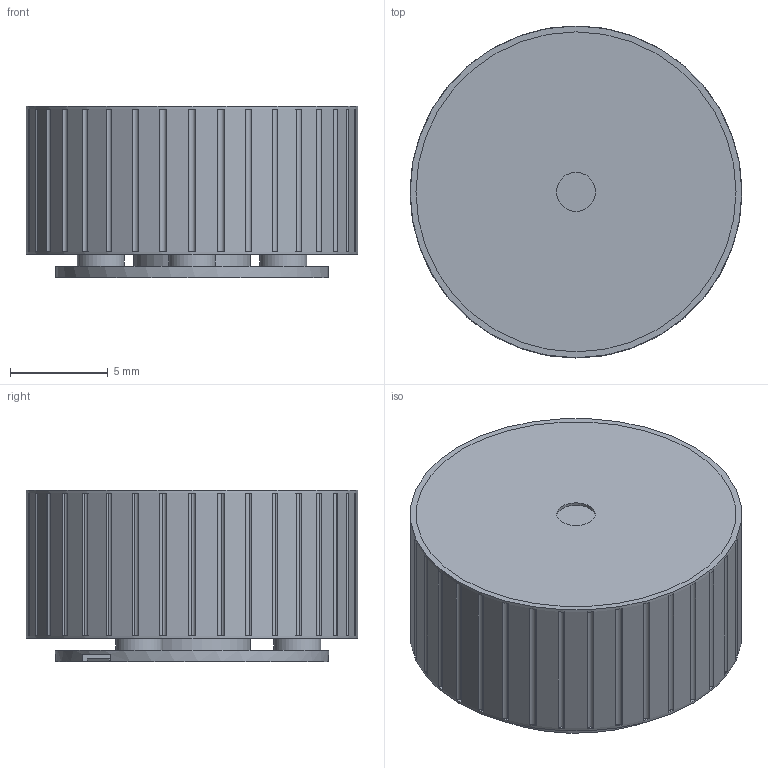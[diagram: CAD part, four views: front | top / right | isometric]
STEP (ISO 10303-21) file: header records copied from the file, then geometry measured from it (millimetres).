
FILE_DESCRIPTION(('Open CASCADE Model'),'2;1');
FILE_NAME('Open CASCADE Shape Model','2026-10-24T17:46:06',('Author'),( 'Open CASCADE'),'Open CASCADE STEP processor 8.0','Open CASCADE 8.0' ,'Unknown');
FILE_SCHEMA(('AUTOMOTIVE_DESIGN { 1 0 10303 214 1 1 1 1 }'));
Length unit declared in the file: millimetre
Products named in the file (42): HW17-R0 preliminary motor wheel; 01_grip_ring; 02_rotor_back_iron; 03_rotor_cap; 04_rotor_shaft; 05_magnet_01_N; 05_magnet_02_S; 05_magnet_03_N; 05_magnet_04_S; 05_magnet_05_N; 05_magnet_06_S; 05_magnet_07_N; 05_magnet_08_S; 05_magnet_09_N; 05_magnet_10_S; 05_magnet_11_N; 05_magnet_12_S; 05_magnet_13_N; 05_magnet_14_S; 06_stator_carrier; 07_stator_stack; 08_coil_01_Ap; 08_coil_02_An; 08_coil_03_Bn; 08_coil_04_Bp; 08_coil_05_Cp; 08_coil_06_Cn; 08_coil_07_An; 08_coil_08_Ap; 08_coil_09_Bp; 08_coil_10_Bn; 08_coil_11_Cn; 08_coil_12_Cp; 09_bearing_1; 09_bearing_2; 10_inner_spacer; 11_lower_outer_retainer; 12_upper_outer_retainer; 13_sensor_magnet; 14_sensor_flex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
Assembly tree (41 placements, depth 2):
  HW17-R0 preliminary motor wheel
    01_grip_ring
    02_rotor_back_iron
    03_rotor_cap
    04_rotor_shaft
    05_magnet_01_N
    05_magnet_02_S
    05_magnet_03_N
    05_magnet_04_S
    05_magnet_05_N
    05_magnet_06_S
    05_magnet_07_N
    05_magnet_08_S
    05_magnet_09_N
    05_magnet_10_S
    05_magnet_11_N
    05_magnet_12_S
    05_magnet_13_N
    05_magnet_14_S
    06_stator_carrier
    07_stator_stack
    08_coil_01_Ap
    08_coil_02_An
    08_coil_03_Bn
    08_coil_04_Bp
    08_coil_05_Cp
    08_coil_06_Cn
    08_coil_07_An
    08_coil_08_Ap
    08_coil_09_Bp
    08_coil_10_Bn
    08_coil_11_Cn
    08_coil_12_Cp
    09_bearing_1
    09_bearing_2
    10_inner_spacer
    11_lower_outer_retainer
    12_upper_outer_retainer
    13_sensor_magnet
    14_sensor_flex
    15_MT6701_max_envelope
    16_sensor_decoupling
Bounding box: 17 x 17 x 8.8 mm (x, y, z)
Volume: 1254.3 mm3; surface area: 5024.8 mm2
Topology: 41 solids, 41 shells, 638 faces, 1446 edges, 938 vertices
Faces by surface type: plane 457, cylinder 181
Full cylindrical faces by diameter (mm): 0.9 x1, 1.1 x3, 2 x6, 2.4 x3, 2.6 x3, 2.8 x1, 4 x1, 4.5 x3, 5 x7, 5.5 x1, 6 x1, 6.1 x1, 6.4 x1, 14 x2, 15.36 x1, 15.4 x1, 16.4 x3, 17 x1
Entity records: 37435 total; most frequent: CARTESIAN_POINT 6390, DIRECTION 5782, ORIENTED_EDGE 2892, PCURVE 2892, DEFINITIONAL_REPRESENTATION 2892, LINE 2794, VECTOR 2794, EDGE_CURVE 1446
